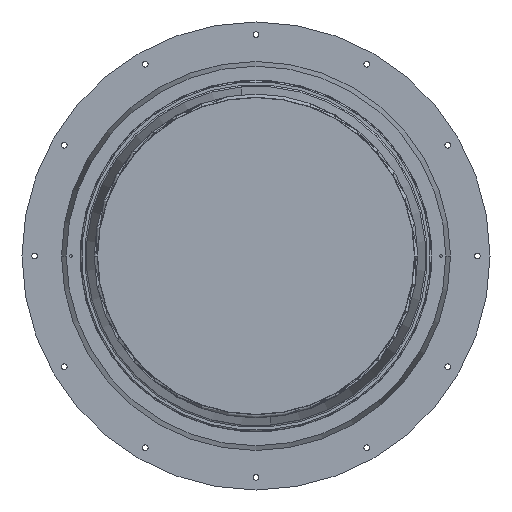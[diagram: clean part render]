
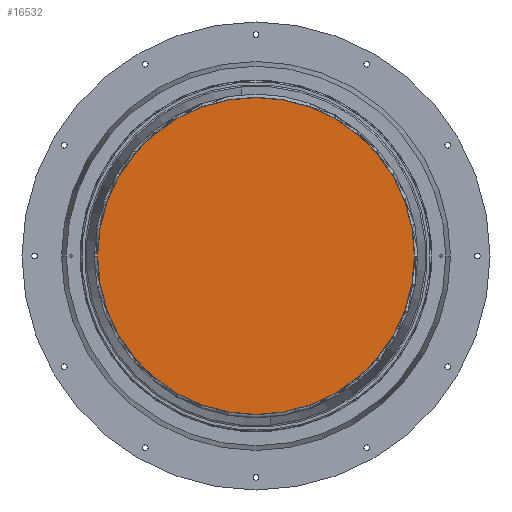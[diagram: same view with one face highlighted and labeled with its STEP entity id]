
A CAD part, front view. The second image highlights one B-rep face of the part: STEP entity #16532.
In plain terms, the highlighted planar face has unit normal (0, -1, 0).
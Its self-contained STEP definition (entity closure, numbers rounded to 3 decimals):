
#3237 = PLANE ( 'NONE',  #124113 ) ;
#16386 = FACE_OUTER_BOUND ( 'NONE', #36973, .T. ) ;
#16532 = ADVANCED_FACE ( 'NONE', ( #16386 ), #3237, .T. ) ;
#17190 = ORIENTED_EDGE ( 'NONE', *, *, #142192, .T. ) ;
#17704 = DIRECTION ( 'NONE',  ( 0., -1., 0. ) ) ;
#22088 = CARTESIAN_POINT ( 'NONE',  ( -0.936, 0., 0. ) ) ;
#31421 = CARTESIAN_POINT ( 'NONE',  ( -0.936, 0., 0. ) ) ;
#36025 = DIRECTION ( 'NONE',  ( 0., 0., 1. ) ) ;
#36973 = EDGE_LOOP ( 'NONE', ( #39530, #17190 ) ) ;
#39530 = ORIENTED_EDGE ( 'NONE', *, *, #51294, .T. ) ;
#44618 = CARTESIAN_POINT ( 'NONE',  ( -501.894, 0., 0. ) ) ;
#45359 = DIRECTION ( 'NONE',  ( 0., 0., 1. ) ) ;
#47596 = CIRCLE ( 'NONE', #80069, 500.958 ) ;
#51294 = EDGE_CURVE ( 'NONE', #174466, #56267, #47596, .T. ) ;
#56267 = VERTEX_POINT ( 'NONE', #44618 ) ;
#64344 = CIRCLE ( 'NONE', #151791, 500.958 ) ;
#80069 = AXIS2_PLACEMENT_3D ( 'NONE', #22088, #118737, #36025 ) ;
#100517 = CARTESIAN_POINT ( 'NONE',  ( -502.979, 0., -500000. ) ) ;
#114415 = DIRECTION ( 'NONE',  ( 0., 0., -1. ) ) ;
#118737 = DIRECTION ( 'NONE',  ( 0., -1., 0. ) ) ;
#124113 = AXIS2_PLACEMENT_3D ( 'NONE', #100517, #17704, #114415 ) ;
#128112 = DIRECTION ( 'NONE',  ( 0., -1., 0. ) ) ;
#142192 = EDGE_CURVE ( 'NONE', #56267, #174466, #64344, .T. ) ;
#148186 = CARTESIAN_POINT ( 'NONE',  ( 500.021, 0., 0. ) ) ;
#151791 = AXIS2_PLACEMENT_3D ( 'NONE', #31421, #128112, #45359 ) ;
#174466 = VERTEX_POINT ( 'NONE', #148186 ) ;
